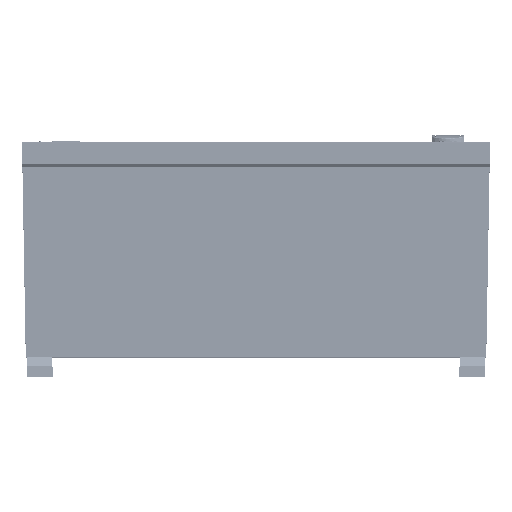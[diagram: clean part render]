
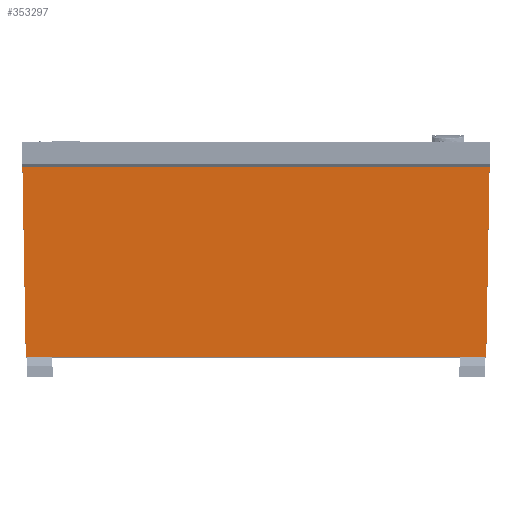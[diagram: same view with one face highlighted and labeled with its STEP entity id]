
A CAD part, top view. The second image highlights one B-rep face of the part: STEP entity #353297.
In plain terms, the highlighted planar face has unit normal (0, -0.019, 1).
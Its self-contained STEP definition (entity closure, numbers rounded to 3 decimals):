
#5784 = ORIENTED_EDGE ( 'NONE', *, *, #184570, .T. ) ;
#11222 = VECTOR ( 'NONE', #505242, 1000. ) ;
#41493 = ORIENTED_EDGE ( 'NONE', *, *, #217644, .T. ) ;
#69239 = PLANE ( 'NONE',  #117647 ) ;
#117647 = AXIS2_PLACEMENT_3D ( 'NONE', #143556, #189610, #340904 ) ;
#119144 = LINE ( 'NONE', #272965, #403639 ) ;
#123745 = CARTESIAN_POINT ( 'NONE',  ( 249.546, 203., 287.8 ) ) ;
#136725 = VERTEX_POINT ( 'NONE', #321588 ) ;
#143556 = CARTESIAN_POINT ( 'NONE',  ( 260., 203., 287.8 ) ) ;
#161315 = EDGE_CURVE ( 'NONE', #222708, #494375, #299432, .T. ) ;
#166033 = LINE ( 'NONE', #324933, #217259 ) ;
#171216 = VECTOR ( 'NONE', #496743, 1000. ) ;
#182022 = FACE_OUTER_BOUND ( 'NONE', #368971, .T. ) ;
#184570 = EDGE_CURVE ( 'NONE', #222708, #136725, #119144, .T. ) ;
#189610 = DIRECTION ( 'NONE',  ( 0., 0.019, -1. ) ) ;
#190536 = ORIENTED_EDGE ( 'NONE', *, *, #457681, .T. ) ;
#198597 = DIRECTION ( 'NONE',  ( -1., 0., 0. ) ) ;
#217259 = VECTOR ( 'NONE', #399268, 1000. ) ;
#217644 = EDGE_CURVE ( 'NONE', #136725, #321079, #166033, .T. ) ;
#222708 = VERTEX_POINT ( 'NONE', #123745 ) ;
#238553 = LINE ( 'NONE', #384752, #11222 ) ;
#272965 = CARTESIAN_POINT ( 'NONE',  ( 260., 203., 287.8 ) ) ;
#299432 = LINE ( 'NONE', #340412, #171216 ) ;
#321079 = VERTEX_POINT ( 'NONE', #376339 ) ;
#321588 = CARTESIAN_POINT ( 'NONE',  ( -249.546, 203., 287.8 ) ) ;
#324933 = CARTESIAN_POINT ( 'NONE',  ( -249.808, 217.995, 288.081 ) ) ;
#340412 = CARTESIAN_POINT ( 'NONE',  ( 249.549, 203.182, 287.803 ) ) ;
#340904 = DIRECTION ( 'NONE',  ( -1., 0., 0. ) ) ;
#353297 = ADVANCED_FACE ( 'NONE', ( #182022 ), #69239, .F. ) ;
#368971 = EDGE_LOOP ( 'NONE', ( #190536, #427401, #5784, #41493 ) ) ;
#376339 = CARTESIAN_POINT ( 'NONE',  ( -246., 0., 284. ) ) ;
#384752 = CARTESIAN_POINT ( 'NONE',  ( 260., 0., 284. ) ) ;
#399268 = DIRECTION ( 'NONE',  ( 0.017, -1., -0.019 ) ) ;
#403639 = VECTOR ( 'NONE', #198597, 1000. ) ;
#419803 = CARTESIAN_POINT ( 'NONE',  ( 246., 0., 284. ) ) ;
#427401 = ORIENTED_EDGE ( 'NONE', *, *, #161315, .F. ) ;
#457681 = EDGE_CURVE ( 'NONE', #321079, #494375, #238553, .T. ) ;
#494375 = VERTEX_POINT ( 'NONE', #419803 ) ;
#496743 = DIRECTION ( 'NONE',  ( -0.017, -1., -0.019 ) ) ;
#505242 = DIRECTION ( 'NONE',  ( 1., 0., 0. ) ) ;
